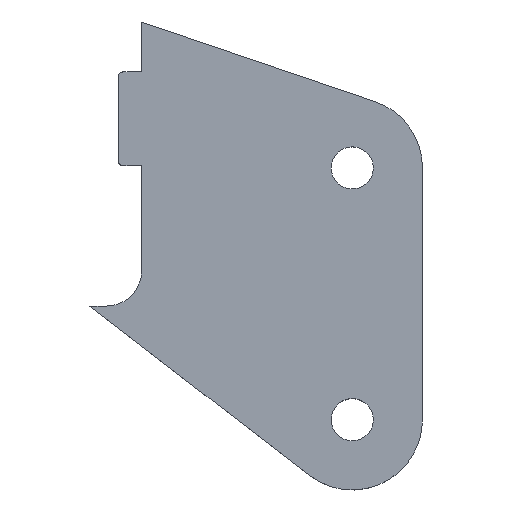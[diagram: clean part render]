
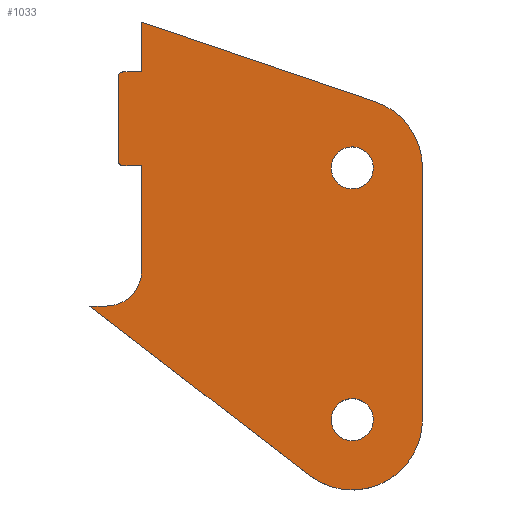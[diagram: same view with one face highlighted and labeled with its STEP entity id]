
A CAD part, top view. The second image highlights one B-rep face of the part: STEP entity #1033.
In plain terms, the highlighted planar face has unit normal (0, 0, 1).
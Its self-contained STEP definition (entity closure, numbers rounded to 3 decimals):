
#483=CIRCLE('',#980,1.);
#485=CIRCLE('',#984,1.);
#487=CIRCLE('',#990,15.);
#489=CIRCLE('',#994,15.);
#490=CIRCLE('',#998,7.5);
#492=CIRCLE('',#1001,4.5);
#493=CIRCLE('',#1002,4.5);
#555=ORIENTED_EDGE('',*,*,#694,.T.);
#556=ORIENTED_EDGE('',*,*,#731,.T.);
#557=ORIENTED_EDGE('',*,*,#728,.F.);
#558=ORIENTED_EDGE('',*,*,#727,.F.);
#559=ORIENTED_EDGE('',*,*,#724,.T.);
#560=ORIENTED_EDGE('',*,*,#721,.T.);
#561=ORIENTED_EDGE('',*,*,#718,.F.);
#562=ORIENTED_EDGE('',*,*,#715,.T.);
#563=ORIENTED_EDGE('',*,*,#712,.T.);
#564=ORIENTED_EDGE('',*,*,#709,.T.);
#565=ORIENTED_EDGE('',*,*,#706,.F.);
#566=ORIENTED_EDGE('',*,*,#703,.F.);
#567=ORIENTED_EDGE('',*,*,#700,.T.);
#568=ORIENTED_EDGE('',*,*,#697,.F.);
#569=ORIENTED_EDGE('',*,*,#732,.F.);
#570=ORIENTED_EDGE('',*,*,#733,.F.);
#598=VECTOR('',#790,1.);
#602=VECTOR('',#802,1.);
#606=VECTOR('',#814,1.);
#609=VECTOR('',#819,1.);
#612=VECTOR('',#824,1.);
#616=VECTOR('',#836,1.);
#620=VECTOR('',#848,1.);
#623=VECTOR('',#853,1.);
#625=VECTOR('',#863,1.);
#630=LINE('',#889,#598);
#634=LINE('',#901,#602);
#638=LINE('',#913,#606);
#641=LINE('',#919,#609);
#644=LINE('',#925,#612);
#648=LINE('',#937,#616);
#652=LINE('',#949,#620);
#655=LINE('',#955,#623);
#657=LINE('',#963,#625);
#660=VERTEX_POINT('',#883);
#662=VERTEX_POINT('',#887);
#664=VERTEX_POINT('',#892);
#666=VERTEX_POINT('',#898);
#668=VERTEX_POINT('',#904);
#670=VERTEX_POINT('',#910);
#672=VERTEX_POINT('',#916);
#674=VERTEX_POINT('',#922);
#676=VERTEX_POINT('',#928);
#678=VERTEX_POINT('',#934);
#680=VERTEX_POINT('',#940);
#682=VERTEX_POINT('',#946);
#684=VERTEX_POINT('',#952);
#685=VERTEX_POINT('',#957);
#687=VERTEX_POINT('',#964);
#688=VERTEX_POINT('',#966);
#694=EDGE_CURVE('',#660,#662,#630,.T.);
#697=EDGE_CURVE('',#660,#664,#483,.T.);
#700=EDGE_CURVE('',#666,#664,#634,.T.);
#703=EDGE_CURVE('',#666,#668,#485,.T.);
#706=EDGE_CURVE('',#668,#670,#638,.T.);
#709=EDGE_CURVE('',#672,#670,#641,.T.);
#712=EDGE_CURVE('',#674,#672,#644,.T.);
#715=EDGE_CURVE('',#676,#674,#487,.T.);
#718=EDGE_CURVE('',#676,#678,#648,.T.);
#721=EDGE_CURVE('',#680,#678,#489,.T.);
#724=EDGE_CURVE('',#682,#680,#652,.T.);
#727=EDGE_CURVE('',#682,#684,#655,.T.);
#728=EDGE_CURVE('',#684,#685,#490,.T.);
#731=EDGE_CURVE('',#662,#685,#657,.T.);
#732=EDGE_CURVE('',#687,#687,#492,.T.);
#733=EDGE_CURVE('',#688,#688,#493,.T.);
#750=EDGE_LOOP('',(#555,#556,#557,#558,#559,#560,#561,#562,#563,#564,#565,
#566,#567,#568));
#751=EDGE_LOOP('',(#569));
#752=EDGE_LOOP('',(#570));
#774=FACE_BOUND('',#750,.T.);
#775=FACE_BOUND('',#751,.T.);
#776=FACE_BOUND('',#752,.T.);
#790=DIRECTION('',(4.,0.,0.));
#796=DIRECTION('',(0.,0.,-1.));
#797=DIRECTION('',(0.,-1.,0.));
#802=DIRECTION('',(0.,-18.,0.));
#808=DIRECTION('',(0.,0.,-1.));
#809=DIRECTION('',(0.,-1.,0.));
#814=DIRECTION('',(4.,0.,0.));
#819=DIRECTION('',(0.,-10.675,0.));
#824=DIRECTION('',(-49.834,16.965,0.));
#830=DIRECTION('',(0.,0.,1.));
#831=DIRECTION('',(0.,15.,0.));
#836=DIRECTION('',(0.,-53.798,0.));
#842=DIRECTION('',(0.,0.,1.));
#843=DIRECTION('',(0.,15.,0.));
#848=DIRECTION('',(46.969,-36.171,0.));
#853=DIRECTION('',(3.621,0.,0.));
#856=DIRECTION('',(0.,0.,1.));
#857=DIRECTION('',(7.5,0.,0.));
#861=DIRECTION('',(0.,0.,1.));
#862=DIRECTION('',(0.,-1.,0.));
#863=DIRECTION('',(0.,-22.5,0.));
#864=DIRECTION('',(0.,0.,1.));
#865=DIRECTION('',(0.,-4.5,0.));
#866=DIRECTION('',(0.,0.,1.));
#867=DIRECTION('',(0.,-4.5,0.));
#883=CARTESIAN_POINT('',(6940.504,13816.36,8.));
#887=CARTESIAN_POINT('',(6944.504,13816.36,8.));
#889=CARTESIAN_POINT('',(6940.504,13816.36,8.));
#892=CARTESIAN_POINT('',(6939.504,13817.36,8.));
#895=CARTESIAN_POINT('',(6940.504,13817.36,8.));
#898=CARTESIAN_POINT('',(6939.504,13835.36,8.));
#901=CARTESIAN_POINT('',(6939.504,13835.36,8.));
#904=CARTESIAN_POINT('',(6940.504,13836.36,8.));
#907=CARTESIAN_POINT('',(6940.504,13835.36,8.));
#910=CARTESIAN_POINT('',(6944.504,13836.36,8.));
#913=CARTESIAN_POINT('',(6940.504,13836.36,8.));
#916=CARTESIAN_POINT('',(6944.504,13847.035,8.));
#919=CARTESIAN_POINT('',(6944.504,13847.035,8.));
#922=CARTESIAN_POINT('',(6994.337,13830.07,8.));
#925=CARTESIAN_POINT('',(6994.337,13830.07,8.));
#928=CARTESIAN_POINT('',(7004.504,13815.871,8.));
#931=CARTESIAN_POINT('',(6989.504,13815.871,8.));
#934=CARTESIAN_POINT('',(7004.504,13762.073,8.));
#937=CARTESIAN_POINT('',(7004.504,13815.871,8.));
#940=CARTESIAN_POINT('',(6980.351,13750.189,8.));
#943=CARTESIAN_POINT('',(6989.504,13762.073,8.));
#946=CARTESIAN_POINT('',(6933.382,13786.36,8.));
#949=CARTESIAN_POINT('',(6933.382,13786.36,8.));
#952=CARTESIAN_POINT('',(6937.004,13786.36,8.));
#955=CARTESIAN_POINT('',(6933.382,13786.36,8.));
#957=CARTESIAN_POINT('',(6944.504,13793.86,8.));
#958=CARTESIAN_POINT('',(6937.004,13793.86,8.));
#962=CARTESIAN_POINT('',(0.,0.,8.));
#963=CARTESIAN_POINT('',(6944.504,13816.36,8.));
#964=CARTESIAN_POINT('',(6989.504,13757.573,8.));
#965=CARTESIAN_POINT('',(6989.504,13762.073,8.));
#966=CARTESIAN_POINT('',(6989.504,13811.371,8.));
#967=CARTESIAN_POINT('',(6989.504,13815.871,8.));
#980=AXIS2_PLACEMENT_3D('',#895,#796,#797);
#984=AXIS2_PLACEMENT_3D('',#907,#808,#809);
#990=AXIS2_PLACEMENT_3D('',#931,#830,#831);
#994=AXIS2_PLACEMENT_3D('',#943,#842,#843);
#998=AXIS2_PLACEMENT_3D('',#958,#856,#857);
#1000=AXIS2_PLACEMENT_3D('',#962,#861,#862);
#1001=AXIS2_PLACEMENT_3D('',#965,#864,#865);
#1002=AXIS2_PLACEMENT_3D('',#967,#866,#867);
#1017=PLANE('',#1000);
#1033=ADVANCED_FACE('',(#774,#775,#776),#1017,.T.);
